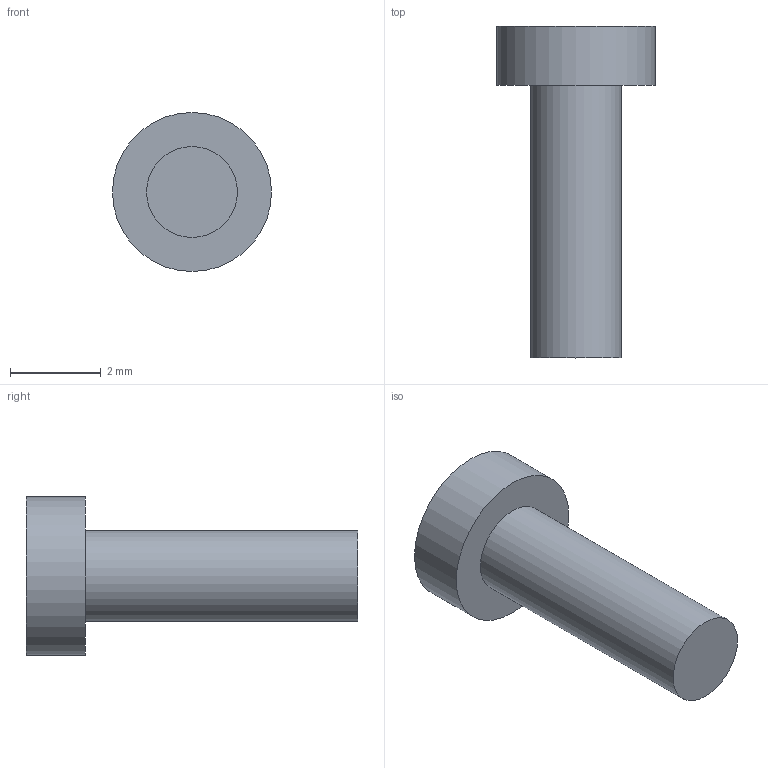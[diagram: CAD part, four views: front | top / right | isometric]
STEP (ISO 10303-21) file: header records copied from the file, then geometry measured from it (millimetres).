
FILE_DESCRIPTION(('Open CASCADE Model'),'2;1');
FILE_NAME('Open CASCADE Shape Model','2026-11-23T18:10:19',('Author'),( 'Open CASCADE'),'Open CASCADE STEP processor 8.0','build123d', 'Unknown');
FILE_SCHEMA(('AUTOMOTIVE_DESIGN { 1 0 10303 214 1 1 1 1 }'));
Length unit declared in the file: millimetre
Products named in the file (2): =>[0:1:1:2]; SOLID
Assembly tree (1 placements, depth 2):
  =>[0:1:1:2]
    SOLID
Bounding box: 3.5 x 7.3 x 3.5 mm (x, y, z)
Volume: 31.4 mm3; surface area: 71.2 mm2
Topology: 1 solids, 1 shells, 5 faces, 6 edges, 4 vertices
Faces by surface type: plane 3, cylinder 2
Full cylindrical faces by diameter (mm): 2 x1, 3.5 x1
Entity records: 210 total; most frequent: DIRECTION 36, CARTESIAN_POINT 29, ORIENTED_EDGE 12, PCURVE 12, DEFINITIONAL_REPRESENTATION 12, AXIS2_PLACEMENT_3D 11, LINE 10, VECTOR 10
